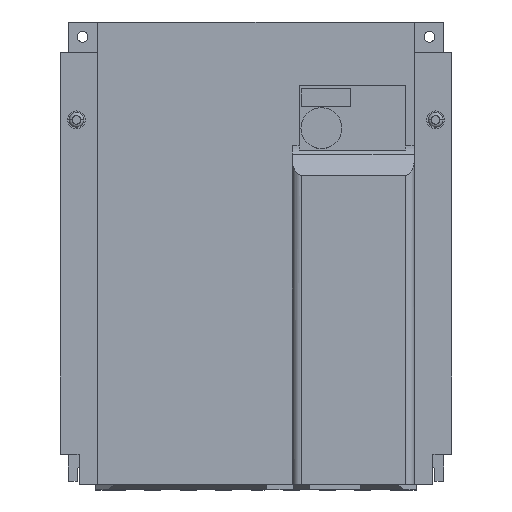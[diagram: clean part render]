
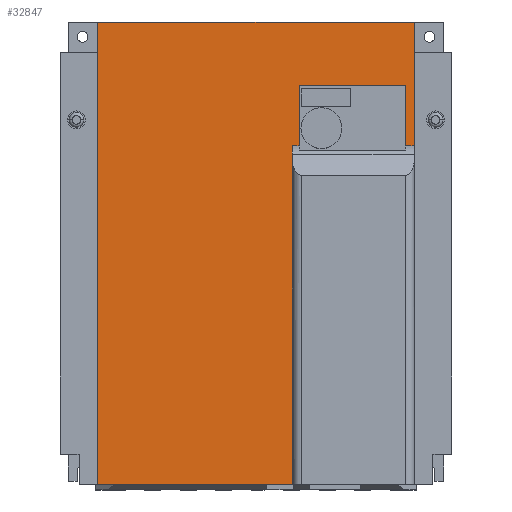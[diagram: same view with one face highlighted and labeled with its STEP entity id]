
A CAD part, top view. The second image highlights one B-rep face of the part: STEP entity #32847.
In plain terms, the highlighted planar face has unit normal (0, 0, 1).
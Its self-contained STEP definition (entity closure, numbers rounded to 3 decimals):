
#31516=DIRECTION('',(0.,-1.,0.));
#31517=VECTOR('',#31516,33.844);
#31518=CARTESIAN_POINT('',(24.25,94.3,13.5));
#31519=LINE('',#31518,#31517);
#31520=DIRECTION('',(-1.,0.,0.));
#31521=VECTOR('',#31520,3.75);
#31522=CARTESIAN_POINT('',(24.25,60.456,13.5));
#31523=LINE('',#31522,#31521);
#31524=DIRECTION('',(1.,0.,0.));
#31525=VECTOR('',#31524,178.);
#31526=CARTESIAN_POINT('',(-89.,130.,13.5));
#31527=LINE('',#31526,#31525);
#31528=DIRECTION('',(-1.,0.,0.));
#31529=VECTOR('',#31528,5.);
#31530=CARTESIAN_POINT('',(89.,60.456,13.5));
#31531=LINE('',#31530,#31529);
#31532=DIRECTION('',(0.,1.,0.));
#31533=VECTOR('',#31532,33.844);
#31534=CARTESIAN_POINT('',(84.,60.456,13.5));
#31535=LINE('',#31534,#31533);
#31536=DIRECTION('',(-1.,0.,0.));
#31537=VECTOR('',#31536,59.75);
#31538=CARTESIAN_POINT('',(84.,94.3,13.5));
#31539=LINE('',#31538,#31537);
#31666=DIRECTION('',(0.,-1.,0.));
#31667=VECTOR('',#31666,69.544);
#31668=CARTESIAN_POINT('',(89.,130.,13.5));
#31669=LINE('',#31668,#31667);
#31698=DIRECTION('',(1.,0.,0.));
#31699=VECTOR('',#31698,109.5);
#31700=CARTESIAN_POINT('',(-89.,-130.,13.5));
#31701=LINE('',#31700,#31699);
#31774=DIRECTION('',(0.,-1.,0.));
#31775=VECTOR('',#31774,260.);
#31776=CARTESIAN_POINT('',(-89.,130.,13.5));
#31777=LINE('',#31776,#31775);
#31972=DIRECTION('',(0.,1.,0.));
#31973=VECTOR('',#31972,190.456);
#31974=CARTESIAN_POINT('',(20.5,-130.,13.5));
#31975=LINE('',#31974,#31973);
#32068=CARTESIAN_POINT('',(-89.,-130.,13.5));
#32069=VERTEX_POINT('',#32068);
#32070=CARTESIAN_POINT('',(20.5,-130.,13.5));
#32071=VERTEX_POINT('',#32070);
#32084=CARTESIAN_POINT('',(24.25,94.3,13.5));
#32086=VERTEX_POINT('',#32084);
#32096=CARTESIAN_POINT('',(84.,94.3,13.5));
#32098=VERTEX_POINT('',#32096);
#32100=CARTESIAN_POINT('',(-89.,130.,13.5));
#32101=CARTESIAN_POINT('',(89.,130.,13.5));
#32102=VERTEX_POINT('',#32100);
#32103=VERTEX_POINT('',#32101);
#32108=CARTESIAN_POINT('',(89.,60.456,13.5));
#32109=VERTEX_POINT('',#32108);
#32110=CARTESIAN_POINT('',(20.5,60.456,13.5));
#32111=VERTEX_POINT('',#32110);
#32202=CARTESIAN_POINT('',(24.25,60.456,13.5));
#32203=VERTEX_POINT('',#32202);
#32204=CARTESIAN_POINT('',(84.,60.456,13.5));
#32205=VERTEX_POINT('',#32204);
#32822=CARTESIAN_POINT('',(-89.,-130.,13.5));
#32823=DIRECTION('',(0.,0.,-1.));
#32824=DIRECTION('',(1.,0.,0.));
#32825=AXIS2_PLACEMENT_3D('',#32822,#32823,#32824);
#32826=PLANE('',#32825);
#32827=ORIENTED_EDGE('',*,*,#32803,.T.);
#32829=ORIENTED_EDGE('',*,*,#32828,.T.);
#32831=ORIENTED_EDGE('',*,*,#32830,.F.);
#32833=ORIENTED_EDGE('',*,*,#32832,.F.);
#32835=ORIENTED_EDGE('',*,*,#32834,.F.);
#32837=ORIENTED_EDGE('',*,*,#32836,.T.);
#32839=ORIENTED_EDGE('',*,*,#32838,.T.);
#32841=ORIENTED_EDGE('',*,*,#32840,.T.);
#32843=ORIENTED_EDGE('',*,*,#32842,.T.);
#32844=ORIENTED_EDGE('',*,*,#32814,.T.);
#32845=EDGE_LOOP('',(#32827,#32829,#32831,#32833,#32835,#32837,#32839,#32841,
#32843,#32844));
#32846=FACE_OUTER_BOUND('',#32845,.F.);
#32847=ADVANCED_FACE('',(#32846),#32826,.F.);
#32803=EDGE_CURVE('',#32086,#32203,#31519,.T.);
#32814=EDGE_CURVE('',#32098,#32086,#31539,.T.);
#32828=EDGE_CURVE('',#32203,#32111,#31523,.T.);
#32830=EDGE_CURVE('',#32071,#32111,#31975,.T.);
#32832=EDGE_CURVE('',#32069,#32071,#31701,.T.);
#32834=EDGE_CURVE('',#32102,#32069,#31777,.T.);
#32836=EDGE_CURVE('',#32102,#32103,#31527,.T.);
#32838=EDGE_CURVE('',#32103,#32109,#31669,.T.);
#32840=EDGE_CURVE('',#32109,#32205,#31531,.T.);
#32842=EDGE_CURVE('',#32205,#32098,#31535,.T.);
